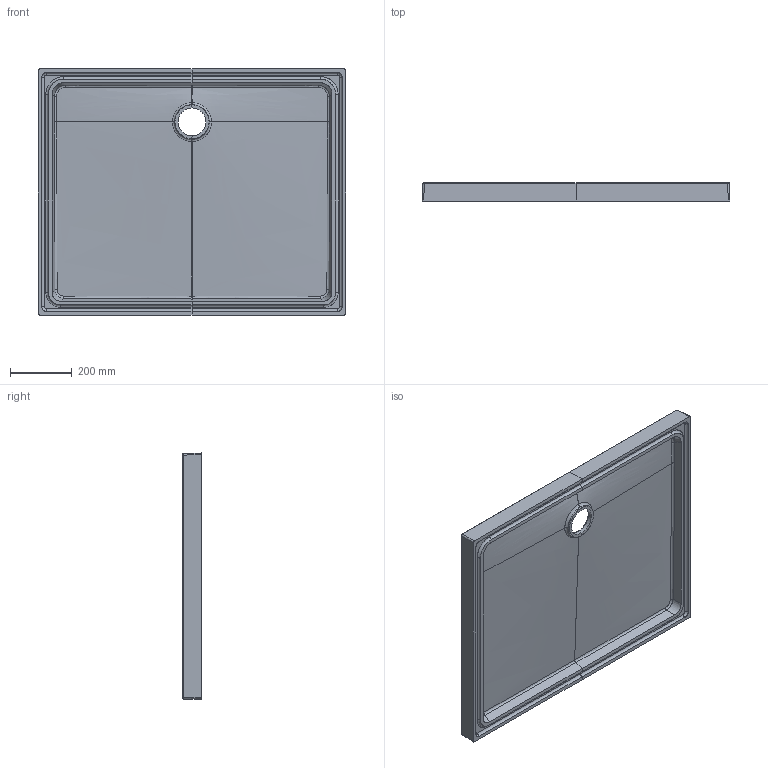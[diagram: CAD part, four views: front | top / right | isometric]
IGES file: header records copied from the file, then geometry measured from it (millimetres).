
Start section: START RECORD GO HERE.
Global section: file name: 1212_3D.igs; native system: DASSAULT SYSTEMES CATIA V5 R19 - www.3ds.com; preprocessor: CATIA Version 5 Release 19 SP 5 ; author: Luca; organization: DESKTOP-V7SON24; date: 20221207.160645; units: millimetre
Bounding box: 1000.19 x 60 x 800.1 mm (x, y, z)
Surface area: 1940978.4 mm2 (no closed solid volume)
Topology: 0 solids, 0 shells, 349 faces, 1647 edges, 1640 vertices
Faces by surface type: bspline 293, revolution 44, plane 12
